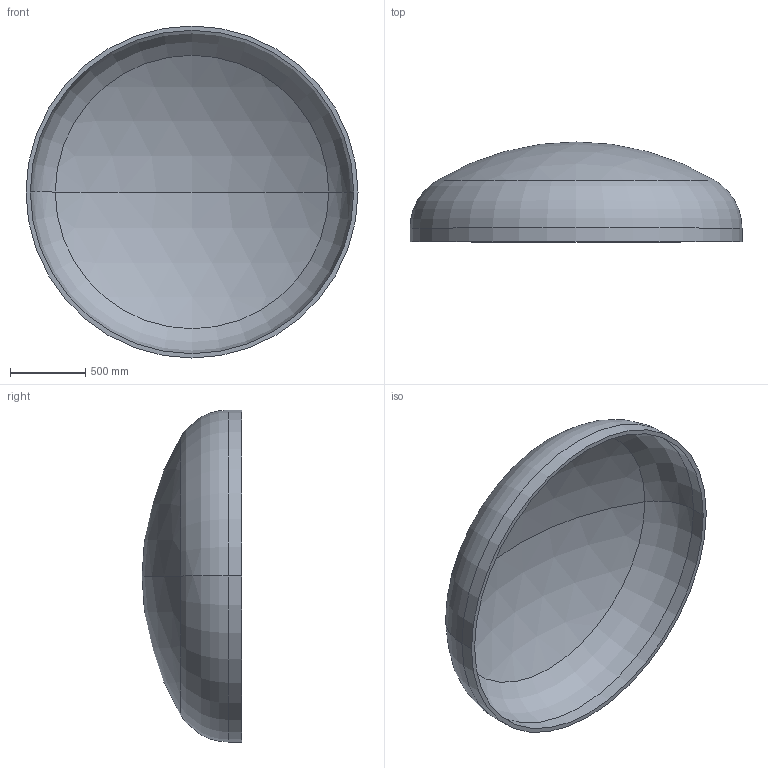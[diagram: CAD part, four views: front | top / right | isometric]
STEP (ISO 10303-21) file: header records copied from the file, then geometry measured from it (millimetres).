
FILE_DESCRIPTION (( 'STEP AP203' ), '1' );
FILE_NAME ('DIN 28013 Korbbogenform_-_Boden DIN 28013 - 2200 x 90 - I - s=29.step', '2016-07-01T14:29:22', ( '' ), ( '' ), 'SwSTEP 2.0', 'SolidWorks 2013', '' );
FILE_SCHEMA (( 'CONFIG_CONTROL_DESIGN' ));
Length unit declared in the file: millimetre
Products named in the file (1): DIN 28013 Korbbogenform_-_Boden DIN 28013 - 2200 x 90 - I - s=29
Bounding box: 2200 x 661.61 x 2200 mm (x, y, z)
Volume: 167947673.3 mm3; surface area: 11782147 mm2
Topology: 1 solids, 1 shells, 13 faces, 24 edges, 14 vertices
Faces by surface type: torus 4, cylinder 4, sphere 4, plane 1
Entity records: 407 total; most frequent: DIRECTION 72, CARTESIAN_POINT 52, ORIENTED_EDGE 48, AXIS2_PLACEMENT_3D 34, EDGE_CURVE 24, CIRCLE 20, EDGE_LOOP 14, VERTEX_POINT 14
